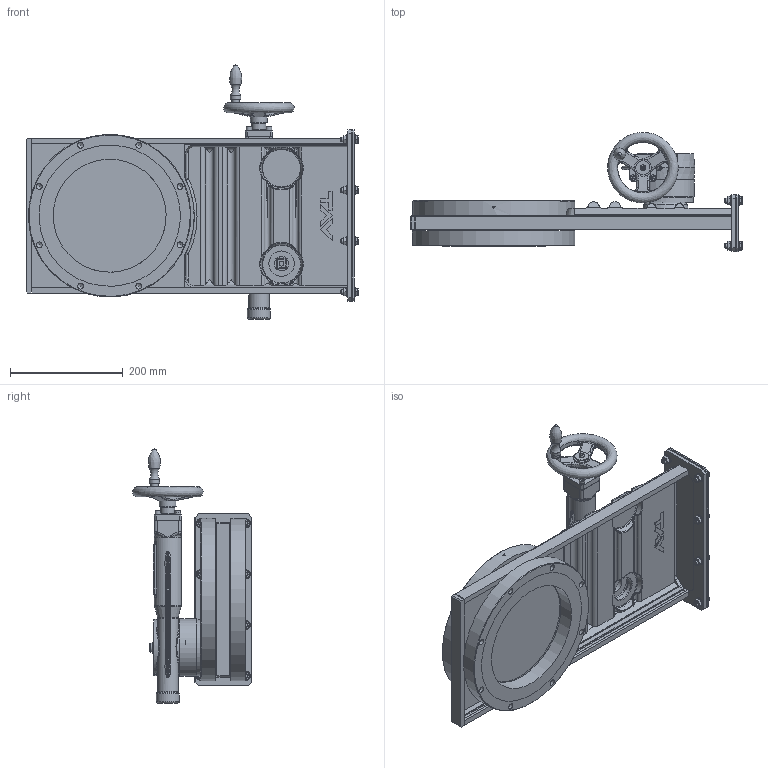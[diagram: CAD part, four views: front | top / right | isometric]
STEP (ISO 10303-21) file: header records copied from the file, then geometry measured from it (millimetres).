
FILE_DESCRIPTION(/* description */ (''),/* implementation_level */ '2;1');
FILE_NAME(/* name */ '1338200984_203.stp',/* time_stamp */ '2015-09-21T14:02:45+02:00',/* author */ (''),/* organization */ (''),/* preprocessor_version */ 'ST-DEVELOPER v15',/* originating_system */ 'SIEMENS PLM Software NX 9.0',/* authorisation */ '');
FILE_SCHEMA (('AP203_CONFIGURATION_CONTROLLED_3D_DESIGN_OF_MECHANICAL_PARTS_AND_ASSEMBLIES_MIM_LF { 1 0 10303 403 2 1 2}'));
Length unit declared in the file: millimetre
Products named in the file (29): 46906-01.4; 46905-03.4; 90391-01.1; 45736-03.1; n-6005-790; 82978-01.1; 82978-01.1_23324ID; 46917-01.2; 87183-01.2; N-6022-102.1; N-5021-515.1; 46812-01.1; 225079.1; N-6137-005.1; n-6162-406; 262955.1; n-7019-050.1; N-6160-411.1; 378307; 77783-01.2; n-5021-497.1; n-6053-412.2; n-6131-414; 47652-r1.1; 77785-01.2; 224810_MODEL; 46904-r1.10; 46910-r1.8; 512520
Assembly tree (66 placements, depth 4):
  512520
    46910-r1.8
      46904-r1.10
        45736-03.1  x2
        90391-01.1
        46905-03.4
        46906-01.4
      46917-01.2
      82978-01.1_23324ID
      82978-01.1
    77785-01.2
    47652-r1.1
    n-6131-414  x16
    n-6053-412.2  x8
    n-5021-497.1  x8
    77783-01.2
    378307
    N-6160-411.1  x2
    n-7019-050.1
    262955.1
    n-6162-406  x4
    N-6137-005.1
    224810_MODEL  x4
      n-6005-790
    225079.1
    46812-01.1
    N-5021-515.1  x2
    N-6022-102.1
    87183-01.2
Bounding box: 587.9 x 210.43 x 449.8 mm (x, y, z)
Volume: 4218832.7 mm3; surface area: 1087115.1 mm2
Topology: 92 solids, 92 shells, 1612 faces, 3765 edges, 2377 vertices
Faces by surface type: plane 717, cylinder 452, cone 174, bspline 155, torus 78, extrusion 21, sphere 15
Full cylindrical faces by diameter (mm): 2.5 x1, 3.3 x4, 4 x1, 4.96 x4, 5 x5, 5.2 x4, 6 x10, 6.55 x4, 6.66 x10, 6.7 x10, 8 x34, 8.4 x16, 8.5 x17, 8.6 x4, 9 x8, 10 x5, 10.3 x16, 12.117 x10, 13 x1, 13.85 x4, 14 x1, 16 x17, 18.5 x1, 19.8 x1, 20.011 x1, 20.055 x1, 20.8 x1, 22 x1, 24.015 x1, 25 x2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
Entity records: 46711 total; most frequent: CARTESIAN_POINT 16172, ORIENTED_EDGE 5208, DIRECTION 4909, EDGE_CURVE 2604, AXIS2_PLACEMENT_3D 1966, VERTEX_POINT 1796, EDGE_LOOP 1588, ADVANCED_FACE 1181
